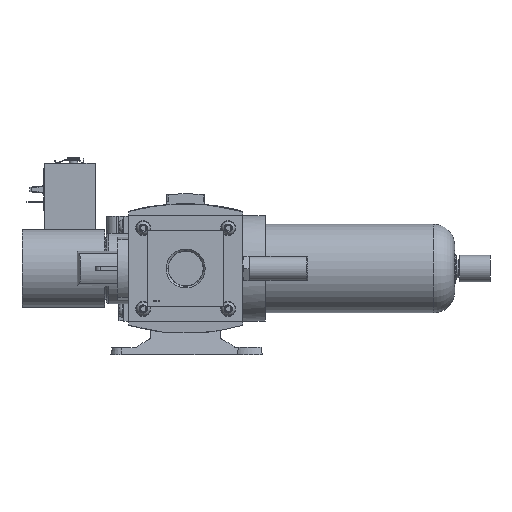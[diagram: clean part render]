
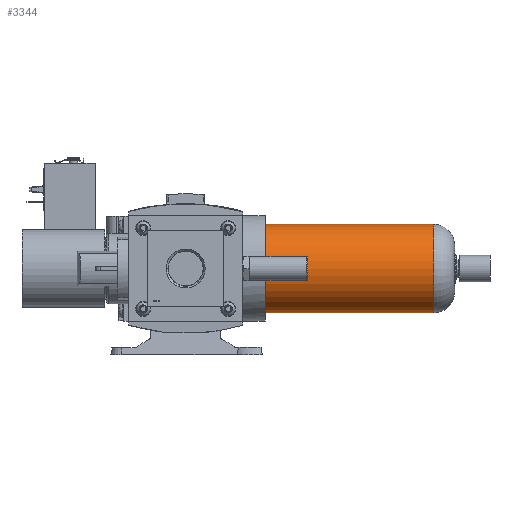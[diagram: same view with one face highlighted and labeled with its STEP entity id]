
A CAD part, left-side view. The second image highlights one B-rep face of the part: STEP entity #3344.
In plain terms, the highlighted cylindrical face has radius 31.75 mm (diameter 63.5 mm), a full revolution.
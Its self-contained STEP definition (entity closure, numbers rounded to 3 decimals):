
#3344 = ADVANCED_FACE( '', ( #7677, #7678 ), #7679, .T. );
#7677 = FACE_OUTER_BOUND( '', #13363, .T. );
#7678 = FACE_OUTER_BOUND( '', #13364, .T. );
#7679 = CYLINDRICAL_SURFACE( '', #13365, 31.75 );
#13363 = EDGE_LOOP( '', ( #22014 ) );
#13364 = EDGE_LOOP( '', ( #22015 ) );
#13365 = AXIS2_PLACEMENT_3D( '', #22016, #22017, #22018 );
#22014 = ORIENTED_EDGE( '', *, *, #34887, .F. );
#22015 = ORIENTED_EDGE( '', *, *, #34888, .T. );
#22016 = CARTESIAN_POINT( '', ( 0., -136.7, 0. ) );
#22017 = DIRECTION( '', ( 0., 1., 0. ) );
#22018 = DIRECTION( '', ( 0., 0., -1. ) );
#34887 = EDGE_CURVE( '', #42409, #42409, #42410, .T. );
#34888 = EDGE_CURVE( '', #42411, #42411, #42412, .T. );
#42409 = VERTEX_POINT( '', #52573 );
#42410 = CIRCLE( '', #52574, 31.75 );
#42411 = VERTEX_POINT( '', #52575 );
#42412 = CIRCLE( '', #52576, 31.75 );
#52573 = CARTESIAN_POINT( '', ( 0., -121.1, -31.75 ) );
#52574 = AXIS2_PLACEMENT_3D( '', #61748, #61749, #61750 );
#52575 = CARTESIAN_POINT( '', ( 0., 0., -31.75 ) );
#52576 = AXIS2_PLACEMENT_3D( '', #61751, #61752, #61753 );
#61748 = CARTESIAN_POINT( '', ( 0., -121.1, 0. ) );
#61749 = DIRECTION( '', ( 0., -1., 0. ) );
#61750 = DIRECTION( '', ( 0., 0., -1. ) );
#61751 = CARTESIAN_POINT( '', ( 0., 0., 0. ) );
#61752 = DIRECTION( '', ( 0., -1., 0. ) );
#61753 = DIRECTION( '', ( 0., 0., -1. ) );
